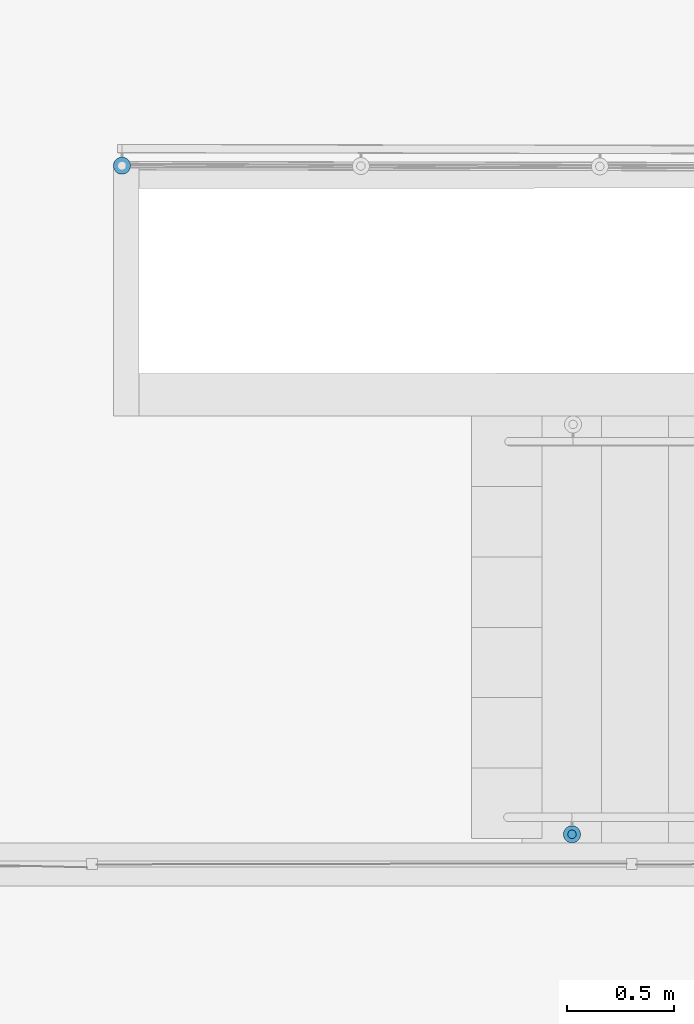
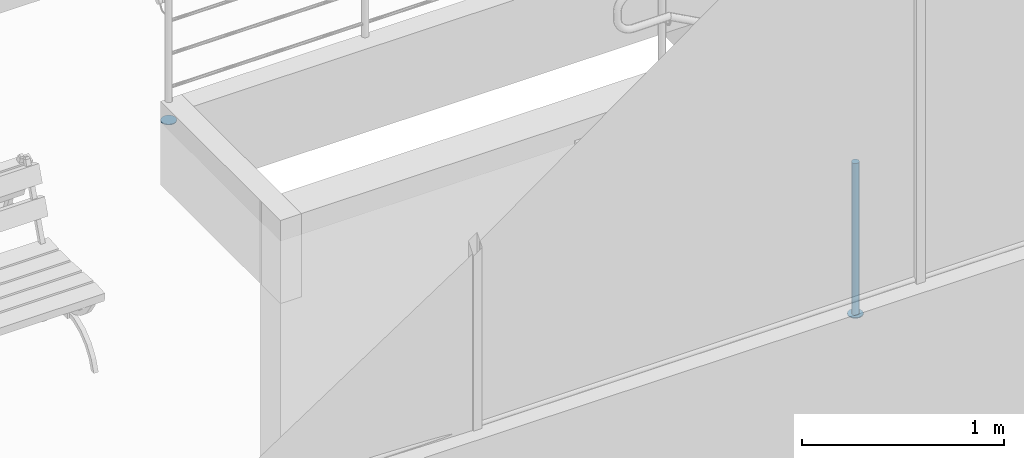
# One storey, part 106 of 237: 3 building element parts, 2 elements without a shape of their own.
"""IFC2X3 building model written with IfcOpenShell, lengths in millimetres."""

from ifc_helpers import new_model, entity, si_unit, converted_unit, derived_unit, money_unit, direction, frame, origin_with_axes, place, context, subcontext, project, spatial, faceted_brep, material, type_object, element, aggregate, save


model = new_model("IFC2X3")

# Units and contexts
model_context = context("Model", 3, precision=0.01, world=origin_with_axes(), true_north=direction((0.0, 1.0)))
body_context = subcontext(model_context, "Body", "Model", "MODEL_VIEW")
ifc_project = project(units=[si_unit("LENGTHUNIT", "METRE", prefix="MILLI"), si_unit("AREAUNIT", "SQUARE_METRE"), si_unit("VOLUMEUNIT", "CUBIC_METRE"), converted_unit("PLANEANGLEUNIT", "DEGREE", entity("IfcPlaneAngleMeasure", 0.0174532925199), si_unit("PLANEANGLEUNIT", "RADIAN"), dimensions=[0, 0, 0, 0, 0, 0, 0]), money_unit("USD"), converted_unit("TIMEUNIT", "Year", entity("IfcTimeMeasure", 31556926.0), si_unit("TIMEUNIT", "SECOND"), dimensions=[0, 0, 1, 0, 0, 0, 0]), si_unit("MASSUNIT", "GRAM", prefix="KILO"), si_unit("THERMODYNAMICTEMPERATUREUNIT", "DEGREE_CELSIUS"), si_unit("LUMINOUSINTENSITYUNIT", "LUMEN"), si_unit("ENERGYUNIT", "JOULE", prefix="MEGA"), derived_unit("THERMALCONDUCTANCEUNIT", [(si_unit("POWERUNIT", "WATT"), 1), (si_unit("LENGTHUNIT", "METRE"), -1), (si_unit("THERMODYNAMICTEMPERATUREUNIT", "KELVIN"), -1)]), derived_unit("SPECIFICHEATCAPACITYUNIT", [(si_unit("ENERGYUNIT", "JOULE"), 1), (si_unit("MASSUNIT", "GRAM", prefix="KILO"), -1), (si_unit("THERMODYNAMICTEMPERATUREUNIT", "KELVIN"), -1)]), derived_unit("MASSDENSITYUNIT", [(si_unit("MASSUNIT", "GRAM", prefix="KILO"), 1), (si_unit("VOLUMEUNIT", "CUBIC_METRE"), -1)])], contexts=[model_context])

# Site, building, storey
site_placement = place(None, origin_with_axes())
site = spatial("IfcSite", under=ifc_project, at=site_placement, Name="Local", CompositionType="ELEMENT")
building_placement = place(site_placement, origin_with_axes())
building = spatial("IfcBuilding", under=site, at=building_placement, Name="Construção", CompositionType="ELEMENT")
storey_placement = place(building_placement, origin_with_axes())
storey = spatial("IfcBuildingStorey", under=building, at=storey_placement, Name="Pavimento Térreo", CompositionType="ELEMENT", Elevation=0.0)

# Railing, building element part
railing_type = type_object("IfcRailingType", Name="Tipo de Guarda-Corpo", PredefinedType="NOTDEFINED")
railing_1_placement = place(storey_placement, frame((70326.6870103, 28675.2458388, -1357.10819655), z_axis=(0.0, 0.0, 1.0), x_axis=(1.0, 0.0, 0.0)))
railing_1 = element("IfcRailing", 1, at=railing_1_placement, inside=storey, type_object=railing_type, Name="Guarda-Corpo - 004", PredefinedType="NOTDEFINED")
ifc_material_1 = material(Name="Alumínio")
building_element_part_1_placement = place(railing_1_placement, origin_with_axes())
building_element_part_1 = element("IfcBuildingElementPart", 2, at=building_element_part_1_placement, material=ifc_material_1, Name="Alumínio", context=body_context, shape_type="Brep", body=[
    faceted_brep([(-9184.33040856, -1845.6010943, 0.0), (-9184.92700716, -1838.65420575, 0.0), (-9184.92700716, -1838.65420575, 5.0), (-9184.33040856, -1845.6010943, 5.0), (-9184.94918817, -1852.54604225, 0.0), (-9186.76454468, -1859.2780309, 0.0), (-9189.7213194, -1865.59251216, 0.0), (-9193.72967224, -1871.29762371, 0.0), (-9198.66781142, -1876.22001864, 0.0), (-9204.38569408, -1880.21013246, 0.0), (-9210.70958524, -1883.14672758, 0.0), (-9217.44733668, -1884.94057704, 0.0), (-9224.39422523, -1885.53717565, 0.0), (-9231.33917319, -1884.91839604, 0.0), (-9238.07116183, -1883.10303953, 0.0), (-9244.38564309, -1880.1462648, 0.0), (-9250.09075465, -1876.13791196, 0.0), (-9255.01314957, -1871.19977278, 0.0), (-9259.00326339, -1865.48189013, 0.0), (-9261.93985851, -1859.15799896, 0.0), (-9263.73370798, -1852.42024752, 0.0), (-9264.33030658, -1845.47335898, 0.0), (-9263.71152697, -1838.52841102, 0.0), (-9261.89617046, -1831.79642237, 0.0), (-9258.93939573, -1825.48194111, 0.0), (-9254.93104289, -1819.77682956, 0.0), (-9249.99290372, -1814.85443463, 0.0), (-9244.27502106, -1810.86432081, 0.0), (-9237.95112989, -1807.92772569, 0.0), (-9231.21337846, -1806.13387623, 0.0), (-9224.26648991, -1805.53727762, 0.0), (-9217.32154195, -1806.15605723, 0.0), (-9210.58955331, -1807.97141374, 0.0), (-9204.27507205, -1810.92818847, 0.0), (-9198.56996049, -1814.93654131, 0.0), (-9193.64756556, -1819.87468049, 0.0), (-9189.65745175, -1825.59256315, 0.0), (-9186.72085663, -1831.91645431, 0.0), (-9186.72085663, -1831.91645431, 5.0), (-9189.65745175, -1825.59256315, 5.0), (-9193.64756556, -1819.87468049, 5.0), (-9198.56996049, -1814.93654131, 5.0), (-9204.27507205, -1810.92818847, 5.0), (-9210.58955331, -1807.97141374, 5.0), (-9217.32154195, -1806.15605723, 5.0), (-9224.26648991, -1805.53727762, 5.0), (-9231.21337846, -1806.13387623, 5.0), (-9237.95112989, -1807.92772569, 5.0), (-9244.27502106, -1810.86432081, 5.0), (-9249.99290372, -1814.85443463, 5.0), (-9254.93104289, -1819.77682956, 5.0), (-9258.93939573, -1825.48194111, 5.0), (-9261.89617046, -1831.79642237, 5.0), (-9263.71152697, -1838.52841102, 5.0), (-9264.33030658, -1845.47335898, 5.0), (-9263.73370798, -1852.42024752, 5.0), (-9261.93985851, -1859.15799896, 5.0), (-9259.00326339, -1865.48189013, 5.0), (-9255.01314957, -1871.19977278, 5.0), (-9250.09075465, -1876.13791196, 5.0), (-9244.38564309, -1880.1462648, 5.0), (-9238.07116183, -1883.10303953, 5.0), (-9231.33917319, -1884.91839604, 5.0), (-9224.39422523, -1885.53717565, 5.0), (-9217.44733668, -1884.94057704, 5.0), (-9210.70958524, -1883.14672758, 5.0), (-9204.38569408, -1880.21013246, 5.0), (-9198.66781142, -1876.22001864, 5.0), (-9193.72967224, -1871.29762371, 5.0), (-9189.7213194, -1865.59251216, 5.0), (-9186.76454468, -1859.2780309, 5.0), (-9184.94918817, -1852.54604225, 5.0)], [[[0, 1, 2, 3]], [[0, 4, 5, 6, 7, 8, 9, 10, 11, 12, 13, 14, 15, 16, 17, 18, 19, 20, 21, 22, 23, 24, 25, 26, 27, 28, 29, 30, 31, 32, 33, 34, 35, 36, 37, 1]], [[1, 37, 38, 2]], [[3, 2, 38, 39, 40, 41, 42, 43, 44, 45, 46, 47, 48, 49, 50, 51, 52, 53, 54, 55, 56, 57, 58, 59, 60, 61, 62, 63, 64, 65, 66, 67, 68, 69, 70, 71]], [[4, 0, 3, 71]], [[5, 4, 71, 70]], [[6, 5, 70, 69]], [[7, 6, 69, 68]], [[8, 7, 68, 67]], [[9, 8, 67, 66]], [[10, 9, 66, 65]], [[11, 10, 65, 64]], [[12, 11, 64, 63]], [[13, 12, 63, 62]], [[14, 13, 62, 61]], [[15, 14, 61, 60]], [[16, 15, 60, 59]], [[17, 16, 59, 58]], [[18, 17, 58, 57]], [[19, 18, 57, 56]], [[20, 19, 56, 55]], [[21, 20, 55, 54]], [[22, 21, 54, 53]], [[23, 22, 53, 52]], [[24, 23, 52, 51]], [[25, 24, 51, 50]], [[26, 25, 50, 49]], [[27, 26, 49, 48]], [[28, 27, 48, 47]], [[29, 28, 47, 46]], [[30, 29, 46, 45]], [[31, 30, 45, 44]], [[32, 31, 44, 43]], [[33, 32, 43, 42]], [[34, 33, 42, 41]], [[35, 34, 41, 40]], [[36, 35, 40, 39]], [[37, 36, 39, 38]]]),
])
aggregate(railing_1, [building_element_part_1])

# Railing, building element parts
railing_2_placement = place(storey_placement, frame((63166.4526815, 23657.7253191, -3364.52588893), z_axis=(0.0, 0.0, 1.0), x_axis=(1.0, 0.0, 0.0)))
railing_2 = element("IfcRailing", 3, at=railing_2_placement, inside=storey, type_object=railing_type, Name="Guarda-Corpo - 001", PredefinedType="NOTDEFINED")
ifc_material_2 = material(Name="Aço - Inoxidável")
building_element_part_2_placement = place(railing_2_placement, origin_with_axes())
building_element_part_2 = element("IfcBuildingElementPart", 4, at=building_element_part_2_placement, material=ifc_material_2, Name="Aço - Inoxidável", context=body_context, shape_type="Brep", body=[
    faceted_brep([(40.449420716, 20.3038449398, 2007.57987356), (43.9223842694, 20.0, 2007.57987356), (43.9223842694, 20.0, 2922.57987356), (40.449420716, 20.3038449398, 2922.57987356), (47.3953478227, 20.3038449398, 2007.57987356), (37.0819814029, 21.2061475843, 2007.57987356), (33.9223842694, 22.6794919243, 2007.57987356), (31.0666320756, 24.6791111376, 2007.57987356), (28.601495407, 27.1442478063, 2007.57987356), (26.6018761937, 30.0, 2007.57987356), (25.1285318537, 33.1595971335, 2007.57987356), (24.2262292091, 36.5270364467, 2007.57987356), (23.9223842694, 40.0, 2007.57987356), (24.2262292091, 43.4729635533, 2007.57987356), (25.1285318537, 46.8404028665, 2007.57987356), (26.6018761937, 50.0, 2007.57987356), (28.601495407, 52.8557521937, 2007.57987356), (31.0666320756, 55.3208888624, 2007.57987356), (33.9223842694, 57.3205080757, 2007.57987356), (37.0819814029, 58.7938524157, 2007.57987356), (40.449420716, 59.6961550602, 2007.57987356), (43.9223842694, 60.0, 2007.57987356), (47.3953478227, 59.6961550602, 2007.57987356), (50.7627871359, 58.7938524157, 2007.57987356), (53.9223842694, 57.3205080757, 2007.57987356), (56.7781364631, 55.3208888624, 2007.57987356), (59.2432731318, 52.8557521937, 2007.57987356), (61.2428923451, 50.0, 2007.57987356), (62.7162366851, 46.8404028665, 2007.57987356), (63.6185393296, 43.4729635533, 2007.57987356), (63.9223842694, 40.0, 2007.57987356), (63.6185393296, 36.5270364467, 2007.57987356), (62.7162366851, 33.1595971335, 2007.57987356), (61.2428923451, 30.0, 2007.57987356), (59.2432731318, 27.1442478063, 2007.57987356), (56.7781364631, 24.6791111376, 2007.57987356), (53.9223842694, 22.6794919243, 2007.57987356), (50.7627871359, 21.2061475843, 2007.57987356), (47.3953478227, 20.3038449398, 2922.57987356), (24.2262292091, 43.4729635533, 2922.57987356), (23.9223842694, 40.0, 2922.57987356), (24.2262292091, 36.5270364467, 2922.57987356), (25.1285318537, 33.1595971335, 2922.57987356), (26.6018761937, 30.0, 2922.57987356), (28.601495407, 27.1442478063, 2922.57987356), (31.0666320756, 24.6791111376, 2922.57987356), (33.9223842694, 22.6794919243, 2922.57987356), (37.0819814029, 21.2061475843, 2922.57987356), (50.7627871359, 21.2061475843, 2922.57987356), (53.9223842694, 22.6794919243, 2922.57987356), (56.7781364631, 24.6791111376, 2922.57987356), (59.2432731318, 27.1442478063, 2922.57987356), (61.2428923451, 30.0, 2922.57987356), (62.7162366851, 33.1595971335, 2922.57987356), (63.6185393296, 36.5270364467, 2922.57987356), (63.9223842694, 40.0, 2922.57987356), (63.6185393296, 43.4729635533, 2922.57987356), (62.7162366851, 46.8404028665, 2922.57987356), (61.2428923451, 50.0, 2922.57987356), (59.2432731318, 52.8557521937, 2922.57987356), (56.7781364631, 55.3208888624, 2922.57987356), (53.9223842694, 57.3205080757, 2922.57987356), (50.7627871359, 58.7938524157, 2922.57987356), (47.3953478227, 59.6961550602, 2922.57987356), (43.9223842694, 60.0, 2922.57987356), (40.449420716, 59.6961550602, 2922.57987356), (37.0819814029, 58.7938524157, 2922.57987356), (33.9223842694, 57.3205080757, 2922.57987356), (31.0666320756, 55.3208888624, 2922.57987356), (28.601495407, 52.8557521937, 2922.57987356), (26.6018761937, 50.0, 2922.57987356), (25.1285318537, 46.8404028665, 2922.57987356)], [[[0, 1, 2, 3]], [[4, 1, 0, 5, 6, 7, 8, 9, 10, 11, 12, 13, 14, 15, 16, 17, 18, 19, 20, 21, 22, 23, 24, 25, 26, 27, 28, 29, 30, 31, 32, 33, 34, 35, 36, 37]], [[1, 4, 38, 2]], [[39, 40, 41, 42, 43, 44, 45, 46, 47, 3, 2, 38, 48, 49, 50, 51, 52, 53, 54, 55, 56, 57, 58, 59, 60, 61, 62, 63, 64, 65, 66, 67, 68, 69, 70, 71]], [[5, 0, 3, 47]], [[6, 5, 47, 46]], [[7, 6, 46, 45]], [[8, 7, 45, 44]], [[9, 8, 44, 43]], [[10, 9, 43, 42]], [[11, 10, 42, 41]], [[12, 11, 41, 40]], [[13, 12, 40, 39]], [[14, 13, 39, 71]], [[15, 14, 71, 70]], [[16, 15, 70, 69]], [[17, 16, 69, 68]], [[18, 17, 68, 67]], [[19, 18, 67, 66]], [[20, 19, 66, 65]], [[21, 20, 65, 64]], [[22, 21, 64, 63]], [[23, 22, 63, 62]], [[24, 23, 62, 61]], [[25, 24, 61, 60]], [[26, 25, 60, 59]], [[27, 26, 59, 58]], [[28, 27, 58, 57]], [[29, 28, 57, 56]], [[30, 29, 56, 55]], [[31, 30, 55, 54]], [[32, 31, 54, 53]], [[33, 32, 53, 52]], [[34, 33, 52, 51]], [[35, 34, 51, 50]], [[36, 35, 50, 49]], [[37, 36, 49, 48]], [[4, 37, 48, 38]]]),
])
building_element_part_3_placement = place(railing_2_placement, origin_with_axes())
building_element_part_3 = element("IfcBuildingElementPart", 5, at=building_element_part_3_placement, material=ifc_material_1, Name="Alumínio", context=body_context, shape_type="Brep", body=[
    faceted_brep([(83.9223842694, 40.0, 2002.57987356), (83.3146943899, 46.9459271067, 2002.57987356), (83.3146943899, 46.9459271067, 2007.57987356), (83.9223842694, 40.0, 2007.57987356), (83.3146943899, 33.0540728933, 2002.57987356), (81.5100891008, 26.319194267, 2002.57987356), (78.5634004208, 20.0, 2002.57987356), (74.5641619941, 14.2884956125, 2002.57987356), (69.6338886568, 9.35822227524, 2002.57987356), (63.9223842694, 5.35898384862, 2002.57987356), (57.6031900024, 2.41229516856, 2002.57987356), (50.8683113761, 0.607689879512, 2002.57987356), (43.9223842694, 0.0, 2002.57987356), (36.9764571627, 0.607689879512, 2002.57987356), (30.2415785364, 2.41229516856, 2002.57987356), (23.9223842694, 5.35898384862, 2002.57987356), (18.2108798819, 9.35822227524, 2002.57987356), (13.2806065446, 14.2884956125, 2002.57987356), (9.281368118, 20.0, 2002.57987356), (6.33467943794, 26.319194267, 2002.57987356), (4.53007414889, 33.0540728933, 2002.57987356), (3.92238426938, 40.0, 2002.57987356), (4.53007414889, 46.9459271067, 2002.57987356), (6.33467943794, 53.680805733, 2002.57987356), (9.281368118, 60.0, 2002.57987356), (13.2806065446, 65.7115043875, 2002.57987356), (18.2108798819, 70.6417777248, 2002.57987356), (23.9223842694, 74.6410161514, 2002.57987356), (30.2415785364, 77.5877048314, 2002.57987356), (36.9764571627, 79.3923101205, 2002.57987356), (43.9223842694, 80.0, 2002.57987356), (50.8683113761, 79.3923101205, 2002.57987356), (57.6031900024, 77.5877048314, 2002.57987356), (63.9223842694, 74.6410161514, 2002.57987356), (69.6338886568, 70.6417777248, 2002.57987356), (74.5641619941, 65.7115043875, 2002.57987356), (78.5634004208, 60.0, 2002.57987356), (81.5100891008, 53.680805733, 2002.57987356), (81.5100891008, 53.680805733, 2007.57987356), (78.5634004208, 60.0, 2007.57987356), (74.5641619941, 65.7115043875, 2007.57987356), (69.6338886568, 70.6417777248, 2007.57987356), (63.9223842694, 74.6410161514, 2007.57987356), (57.6031900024, 77.5877048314, 2007.57987356), (50.8683113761, 79.3923101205, 2007.57987356), (43.9223842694, 80.0, 2007.57987356), (36.9764571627, 79.3923101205, 2007.57987356), (30.2415785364, 77.5877048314, 2007.57987356), (23.9223842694, 74.6410161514, 2007.57987356), (18.2108798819, 70.6417777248, 2007.57987356), (13.2806065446, 65.7115043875, 2007.57987356), (9.281368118, 60.0, 2007.57987356), (6.33467943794, 53.680805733, 2007.57987356), (4.53007414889, 46.9459271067, 2007.57987356), (3.92238426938, 40.0, 2007.57987356), (4.53007414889, 33.0540728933, 2007.57987356), (6.33467943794, 26.319194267, 2007.57987356), (9.281368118, 20.0, 2007.57987356), (13.2806065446, 14.2884956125, 2007.57987356), (18.2108798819, 9.35822227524, 2007.57987356), (23.9223842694, 5.35898384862, 2007.57987356), (30.2415785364, 2.41229516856, 2007.57987356), (36.9764571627, 0.607689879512, 2007.57987356), (43.9223842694, 0.0, 2007.57987356), (50.8683113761, 0.607689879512, 2007.57987356), (57.6031900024, 2.41229516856, 2007.57987356), (63.9223842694, 5.35898384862, 2007.57987356), (69.6338886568, 9.35822227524, 2007.57987356), (74.5641619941, 14.2884956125, 2007.57987356), (78.5634004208, 20.0, 2007.57987356), (81.5100891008, 26.319194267, 2007.57987356), (83.3146943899, 33.0540728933, 2007.57987356)], [[[0, 1, 2, 3]], [[0, 4, 5, 6, 7, 8, 9, 10, 11, 12, 13, 14, 15, 16, 17, 18, 19, 20, 21, 22, 23, 24, 25, 26, 27, 28, 29, 30, 31, 32, 33, 34, 35, 36, 37, 1]], [[1, 37, 38, 2]], [[3, 2, 38, 39, 40, 41, 42, 43, 44, 45, 46, 47, 48, 49, 50, 51, 52, 53, 54, 55, 56, 57, 58, 59, 60, 61, 62, 63, 64, 65, 66, 67, 68, 69, 70, 71]], [[4, 0, 3, 71]], [[5, 4, 71, 70]], [[6, 5, 70, 69]], [[7, 6, 69, 68]], [[8, 7, 68, 67]], [[9, 8, 67, 66]], [[10, 9, 66, 65]], [[11, 10, 65, 64]], [[12, 11, 64, 63]], [[13, 12, 63, 62]], [[14, 13, 62, 61]], [[15, 14, 61, 60]], [[16, 15, 60, 59]], [[17, 16, 59, 58]], [[18, 17, 58, 57]], [[19, 18, 57, 56]], [[20, 19, 56, 55]], [[21, 20, 55, 54]], [[22, 21, 54, 53]], [[23, 22, 53, 52]], [[24, 23, 52, 51]], [[25, 24, 51, 50]], [[26, 25, 50, 49]], [[27, 26, 49, 48]], [[28, 27, 48, 47]], [[29, 28, 47, 46]], [[30, 29, 46, 45]], [[31, 30, 45, 44]], [[32, 31, 44, 43]], [[33, 32, 43, 42]], [[34, 33, 42, 41]], [[35, 34, 41, 40]], [[36, 35, 40, 39]], [[37, 36, 39, 38]]]),
])
aggregate(railing_2, [building_element_part_2, building_element_part_3])

save(model, "model.ifc")
